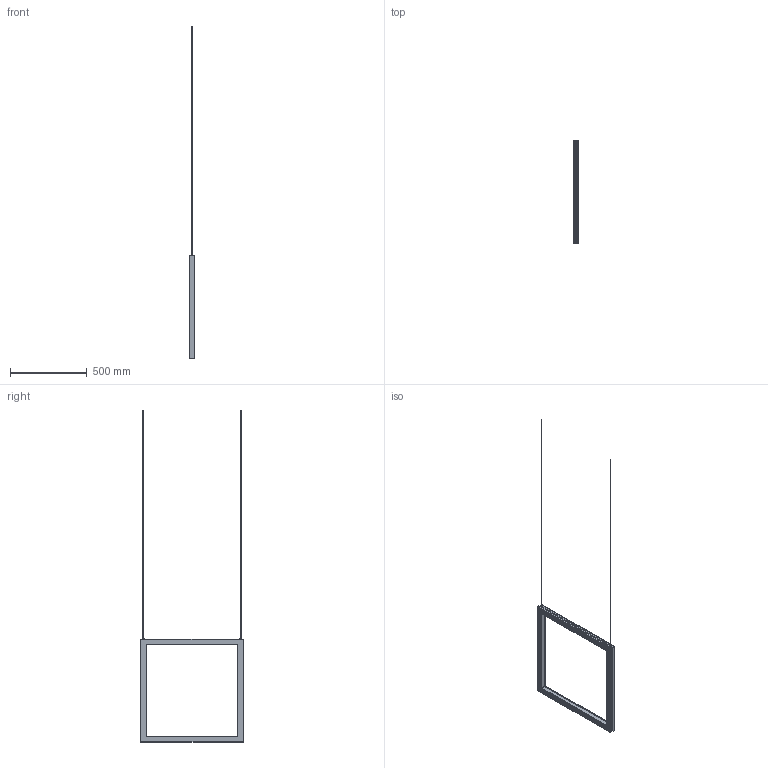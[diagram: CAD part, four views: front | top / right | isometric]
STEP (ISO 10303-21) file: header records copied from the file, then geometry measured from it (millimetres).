
FILE_DESCRIPTION(/* description */ ('Unknown'),/* implementation_level */ '2;1');
FILE_NAME(/* name */ 'TOUR QV 26.4',/* time_stamp */ '2023-01-24T08:45:30-05:00',/* author */ ('Unknown'),/* organization */ ('Unknown'),/* preprocessor_version */ 'ST-DEVELOPER v18.1',/* originating_system */ 'Solid Edge',/* authorisation */ 'Unknown');
FILE_SCHEMA (('AUTOMOTIVE_DESIGN {1 0 10303 214 3 1 1}'));
Length unit declared in the file: millimetre
Products named in the file (1): TOUR QV 26.4
Bounding box: 37 x 670 x 2161.5 mm (x, y, z)
Volume: 1093127.8 mm3; surface area: 954338.5 mm2
Topology: 3 solids, 3 shells, 905 faces, 2260 edges, 1396 vertices
Faces by surface type: plane 509, cylinder 366, cone 16, bspline 12, torus 2
Full cylindrical faces by diameter (mm): 2.3 x2, 3 x2, 4.134 x2, 12.4 x2
Entity records: 33637 total; most frequent: CARTESIAN_POINT 5804, ORIENTED_EDGE 4448, DIRECTION 4390, EDGE_CURVE 2224, AXIS2_PLACEMENT_3D 1472, LINE 1446, VECTOR 1446, VERTEX_POINT 1386
